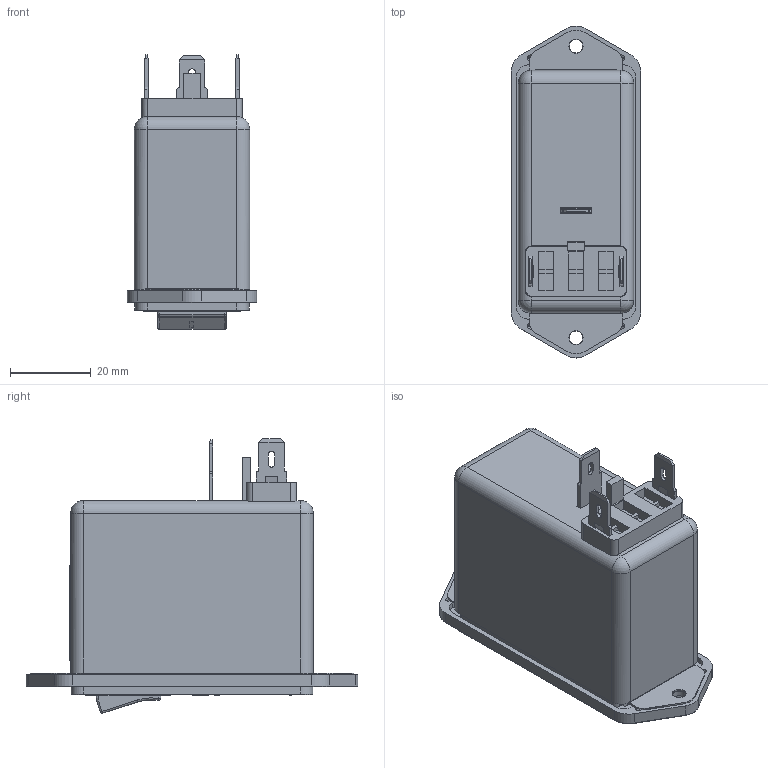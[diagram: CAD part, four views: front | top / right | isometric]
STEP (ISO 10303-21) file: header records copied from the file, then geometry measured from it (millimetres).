
FILE_DESCRIPTION((''),'2;1');
FILE_NAME('D:\_ PRODUCT\FN281-6\3D_simulation\FN282-xx-06_.stp','2012-10-24T10:17:48',('sayan.penton'),(''),'Autodesk Inventor 2010','Autodesk Inventor 2010','');
FILE_SCHEMA(('AUTOMOTIVE_DESIGN { 1 0 10303 214 1 1 1 1 }'));
Length unit declared in the file: millimetre
Products named in the file (1): Part5
Bounding box: 32 x 82 x 67.85 mm (x, y, z)
Volume: 32164.7 mm3; surface area: 46060.6 mm2
Topology: 4 solids, 4 shells, 1813 faces, 5117 edges, 3326 vertices
Faces by surface type: plane 1151, bspline 443, cylinder 175, torus 22, cone 14, sphere 8
Full cylindrical faces by diameter (mm): 1.1 x2, 1.2 x2, 1.5 x2, 2.135 x1, 3 x1, 3.134 x1, 3.3 x2, 3.5 x2, 4.7 x2, 5.3 x4, 5.8 x2
Entity records: 68496 total; most frequent: CARTESIAN_POINT 21710, ORIENTED_EDGE 10154, DIRECTION 7802, EDGE_CURVE 5077, VECTOR 4086, LINE 4086, VERTEX_POINT 3317, EDGE_LOOP 1976
